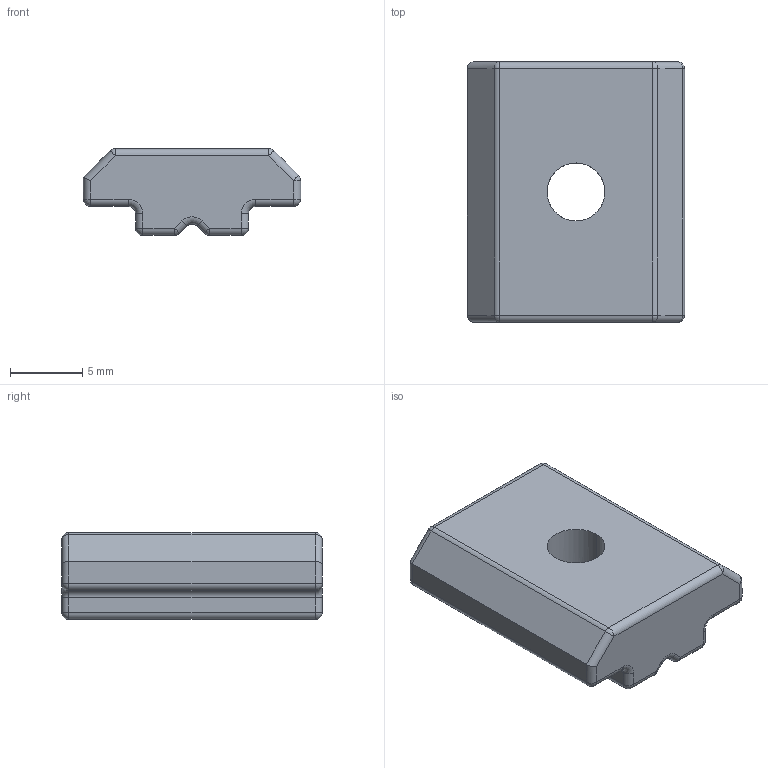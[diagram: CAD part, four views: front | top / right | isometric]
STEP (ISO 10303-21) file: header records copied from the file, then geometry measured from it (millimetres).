
FILE_DESCRIPTION (( 'STEP AP203' ), '1' );
FILE_NAME ('5066.STEP', '2016-04-22T16:10:39', ( '' ), ( '' ), 'SwSTEP 2.0', 'SolidWorks 2014', '' );
FILE_SCHEMA (( 'CONFIG_CONTROL_DESIGN' ));
Length unit declared in the file: millimetre
Products named in the file (1): 5066
Bounding box: 15 x 18 x 6 mm (x, y, z)
Volume: 1193.6 mm3; surface area: 870 mm2
Topology: 1 solids, 1 shells, 84 faces, 199 edges, 98 vertices
Faces by surface type: cylinder 43, sphere 18, plane 17, torus 6
Entity records: 2320 total; most frequent: DIRECTION 423, CARTESIAN_POINT 408, ORIENTED_EDGE 362, EDGE_CURVE 181, AXIS2_PLACEMENT_3D 169, VERTEX_POINT 98, LINE 85, EDGE_LOOP 85
